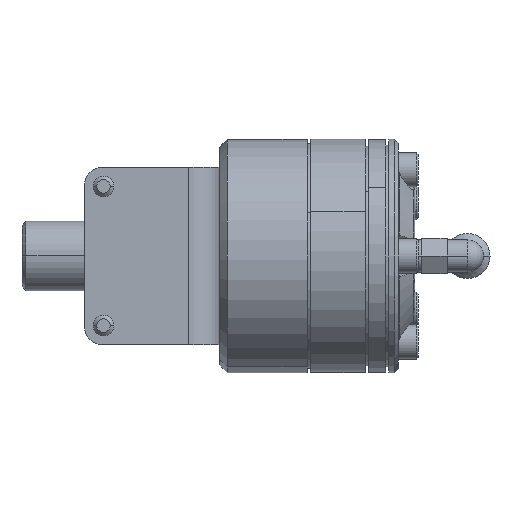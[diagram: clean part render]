
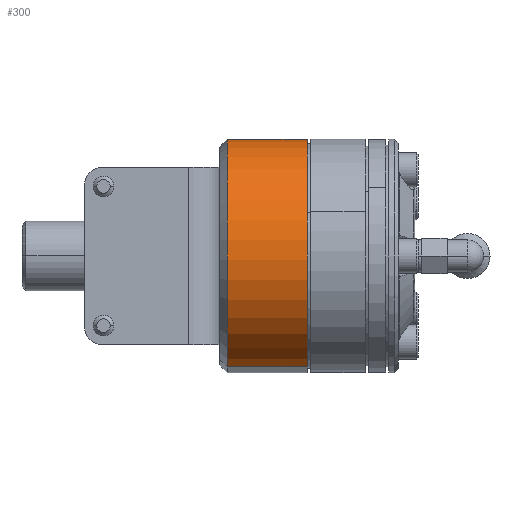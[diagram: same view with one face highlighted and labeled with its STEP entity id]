
A CAD part, left-side view. The second image highlights one B-rep face of the part: STEP entity #300.
In plain terms, the highlighted cylindrical face has radius 22.987 mm (diameter 45.974 mm), a partial arc.
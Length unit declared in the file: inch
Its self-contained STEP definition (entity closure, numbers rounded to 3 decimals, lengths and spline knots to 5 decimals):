
#21=CARTESIAN_POINT('',(0.27966,0.5495,0.86071));
#41=CARTESIAN_POINT('',(0.,0.62,0.));
#42=DIRECTION('',(0.,1.,0.));
#43=DIRECTION('',(-0.309,0.,-0.951));
#44=AXIS2_PLACEMENT_3D('',#41,#42,#43);
#46=DIRECTION('',(0.,1.,0.));
#47=VECTOR('',#46,0.0705);
#48=CARTESIAN_POINT('',(0.27966,0.5495,0.86071));
#49=LINE('',#48,#47);
#50=CARTESIAN_POINT('',(0.27966,0.2105,0.86071));
#51=CARTESIAN_POINT('',(0.26904,0.2105,0.86416));
#52=CARTESIAN_POINT('',(0.24811,0.21266,0.87053));
#53=CARTESIAN_POINT('',(0.21714,0.22229,0.87875));
#54=CARTESIAN_POINT('',(0.18843,0.23791,0.88531));
#55=CARTESIAN_POINT('',(0.16301,0.25886,0.8903));
#56=CARTESIAN_POINT('',(0.1419,0.2844,0.89387));
#57=CARTESIAN_POINT('',(0.12596,0.31364,0.89622));
#58=CARTESIAN_POINT('',(0.1159,0.34572,0.89756));
#59=CARTESIAN_POINT('',(0.11239,0.37924,0.89799));
#60=CARTESIAN_POINT('',(0.1156,0.41274,0.89759));
#61=CARTESIAN_POINT('',(0.12533,0.44489,0.89631));
#62=CARTESIAN_POINT('',(0.14113,0.47449,0.89399));
#63=CARTESIAN_POINT('',(0.16225,0.5004,0.89044));
#64=CARTESIAN_POINT('',(0.18779,0.52168,0.88545));
#65=CARTESIAN_POINT('',(0.21666,0.53752,0.87887));
#66=CARTESIAN_POINT('',(0.24785,0.54731,0.87061));
#67=CARTESIAN_POINT('',(0.26895,0.5495,0.86419));
#68=CARTESIAN_POINT('',(0.27966,0.5495,0.86071));
#70=DIRECTION('',(0.,1.,0.));
#71=VECTOR('',#70,0.2105);
#72=CARTESIAN_POINT('',(0.27966,0.,0.86071));
#73=LINE('',#72,#71);
#74=CARTESIAN_POINT('',(0.,0.,0.));
#75=DIRECTION('',(0.,-1.,0.));
#76=DIRECTION('',(0.309,0.,0.951));
#77=AXIS2_PLACEMENT_3D('',#74,#75,#76);
#79=DIRECTION('',(0.,1.,0.));
#80=VECTOR('',#79,0.62);
#81=CARTESIAN_POINT('',(-0.27966,0.,-0.86071));
#82=LINE('',#81,#80);
#199=CARTESIAN_POINT('',(0.27966,0.,0.86071));
#200=CARTESIAN_POINT('',(-0.27966,0.,-0.86071));
#201=VERTEX_POINT('',#199);
#202=VERTEX_POINT('',#200);
#207=CARTESIAN_POINT('',(0.27966,0.2105,0.86071));
#208=VERTEX_POINT('',#207);
#209=VERTEX_POINT('',#21);
#214=CARTESIAN_POINT('',(0.27966,0.62,
0.86071));
#215=CARTESIAN_POINT('',(-0.27966,0.62,
-0.86071));
#216=VERTEX_POINT('',#214);
#217=VERTEX_POINT('',#215);
#285=CARTESIAN_POINT('',(0.,-0.07,0.));
#286=DIRECTION('',(0.,1.,0.));
#287=DIRECTION('',(0.309,0.,0.951));
#288=AXIS2_PLACEMENT_3D('',#285,#286,#287);
#289=CYLINDRICAL_SURFACE('',#288,0.905);
#291=ORIENTED_EDGE('',*,*,#290,.T.);
#292=ORIENTED_EDGE('',*,*,#280,.F.);
#294=ORIENTED_EDGE('',*,*,#293,.F.);
#295=ORIENTED_EDGE('',*,*,#276,.F.);
#296=ORIENTED_EDGE('',*,*,#259,.T.);
#297=ORIENTED_EDGE('',*,*,#273,.T.);
#298=EDGE_LOOP('',(#291,#292,#294,#295,#296,#297));
#299=FACE_OUTER_BOUND('',#298,.F.);
#300=ADVANCED_FACE('',(#299),#289,.T.);
#45=CIRCLE('',#44,0.905);
#69=B_SPLINE_CURVE_WITH_KNOTS('',3,(#50,#51,#52,#53,#54,#55,#56,#57,#58,#59,#60,
#61,#62,#63,#64,#65,#66,#67,#68),.UNSPECIFIED.,.F.,.F.,(4,1,1,1,1,1,1,1,1,1,1,1,
1,1,1,1,4),(0.,0.0625,0.125,0.1875,0.25,0.3125,0.375,0.4375,
0.5,0.5625,0.625,0.6875,0.75,0.8125,0.875,0.9375,1.),
.UNSPECIFIED.);
#78=CIRCLE('',#77,0.905);
#259=EDGE_CURVE('',#201,#202,#78,.T.);
#273=EDGE_CURVE('',#202,#217,#82,.T.);
#276=EDGE_CURVE('',#201,#208,#73,.T.);
#280=EDGE_CURVE('',#209,#216,#49,.T.);
#290=EDGE_CURVE('',#217,#216,#45,.T.);
#293=EDGE_CURVE('',#208,#209,#69,.T.);
